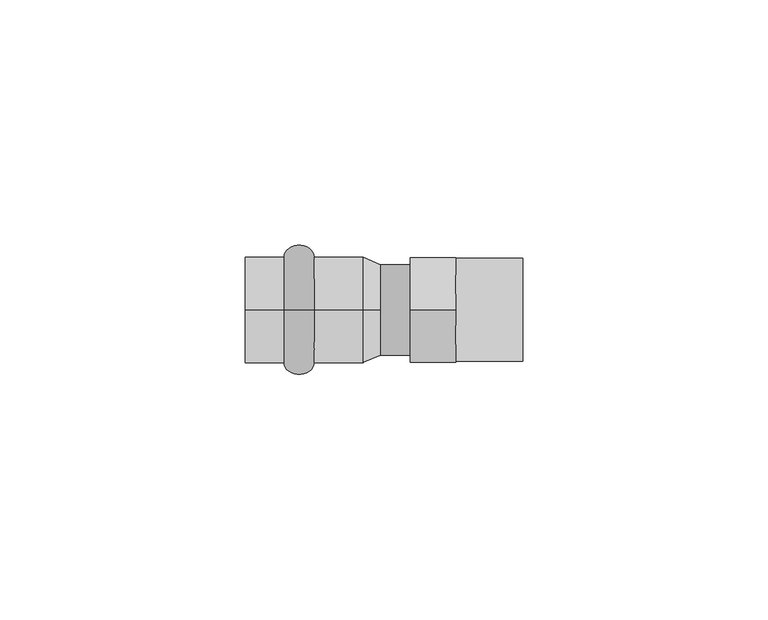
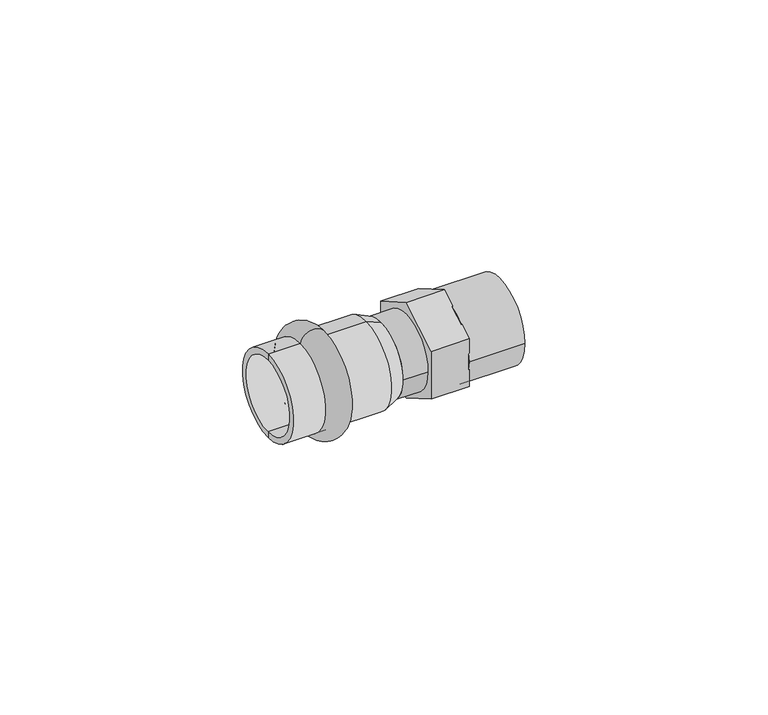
"""IFC4 building model written with IfcOpenShell, lengths in millimetres: pipe fitting geometry."""

from ifc_helpers import new_model, si_unit, point, frame, origin, origin_2d, place, context, project, spatial, polyline, circle_curve, ellipse_curve, trimmed, segment, composite_curve, outline, extrude, source, transform, mapped, element, save
from ifc_brep_helpers import plane_surface, cylinder_surface, revolved_surface, advanced_brep


def pipe_fitting_68494769(model_context):
    return source(origin(), model_context, "Body", "SolidModel", [
        advanced_brep(
        [(-16.1, 0.0, 10.75), (-16.1, 0.0, -10.75), (-10.0, 0.0, -10.75), (-10.0, 0.0, 10.75)],
        [
            (0, 1, circle_curve(frame((-16.1, 0.0, 0.0), z_axis=(-1.0, 0.0, 0.0), x_axis=(0.0, 0.0, -1.0)), 10.75)),
            (1, 2),
            (2, 3, circle_curve(frame((-10.0, 0.0, 0.0), z_axis=(1.0, 0.0, 0.0), x_axis=(0.0, 0.0, -1.0)), 10.75)),
            (3, 0),
            (1, 0, circle_curve(frame((-16.1, 0.0, 0.0), z_axis=(-1.0, 0.0, 0.0), x_axis=(0.0, 0.0, -1.0)), 10.75)),
            (3, 2, circle_curve(frame((-10.0, 0.0, 0.0), z_axis=(1.0, 0.0, 0.0), x_axis=(0.0, 0.0, -1.0)), 10.75)),
            (2, 1, ellipse_curve(frame((-13.05, 0.0, -10.75), z_axis=(0.0, 1.0, 0.0), x_axis=(-1.0, 0.0, 0.0)), 3.05, 2.5)),
            (0, 3, ellipse_curve(frame((-13.05, 0.0, 10.75), z_axis=(0.0, 1.0, 0.0), x_axis=(-1.0, 0.0, 0.0)), 3.05, 2.5)),
        ],
        [
            revolved_surface(polyline([(-10.0, 0.0, -10.75), (-16.1, 0.0, -10.75)]), (3.0, 0.0, 0.0), (1.0, 0.0, 0.0)),
            revolved_surface(trimmed(ellipse_curve(frame((-13.05, 0.0, -10.75), z_axis=(0.0, -1.0, 0.0), x_axis=(-1.0, 0.0, 0.0)), 3.05, 2.5), [point((-16.1, 0.0, -10.75))], [point((-10.0, 0.0, -10.75))], True, "CARTESIAN"), (3.0, 0.0, 0.0), (1.0, 0.0, 0.0)),
        ],
        [
            (0, [[1, 2, 3, 4]]),
            (0, [[5, -4, 6, -2]]),
            (1, [[-3, 7, -1, 8]]),
            (1, [[-6, -8, -5, -7]]),
        ],
    ),
        advanced_brep(
        [(3.5337785, 0.0, 9.25), (3.5337785, 0.0, -9.25), (0.0, 0.0, -10.75), (0.0, 0.0, 10.75), (-24.0, 0.0, 9.25), (-24.0, 0.0, -9.25), (-24.0, 0.0, 10.75), (-24.0, 0.0, -10.75)],
        [
            (0, 1, circle_curve(frame((3.5337785, 0.0, 0.0), z_axis=(-1.0, 0.0, 0.0), x_axis=(0.0, 0.0, -1.0)), 9.25)),
            (1, 2),
            (2, 3, circle_curve(frame((0.0, 0.0, 0.0), z_axis=(1.0, 0.0, 0.0), x_axis=(0.0, 0.0, -1.0)), 10.75)),
            (3, 0),
            (1, 0, circle_curve(frame((3.5337785, 0.0, 0.0), z_axis=(-1.0, 0.0, 0.0), x_axis=(0.0, 0.0, -1.0)), 9.25)),
            (3, 2, circle_curve(frame((0.0, 0.0, 0.0), z_axis=(1.0, 0.0, 0.0), x_axis=(0.0, 0.0, -1.0)), 10.75)),
            (4, 5, circle_curve(frame((-24.0, 0.0, 0.0), z_axis=(-1.0, 0.0, 0.0), x_axis=(0.0, 0.0, -1.0)), 9.25)),
            (5, 1),
            (0, 4),
            (5, 4, circle_curve(frame((-24.0, 0.0, 0.0), z_axis=(-1.0, 0.0, 0.0), x_axis=(0.0, 0.0, -1.0)), 9.25)),
            (6, 7, circle_curve(frame((-24.0, 0.0, 0.0), z_axis=(-1.0, 0.0, 0.0), x_axis=(0.0, 0.0, -1.0)), 10.75)),
            (7, 5),
            (4, 6),
            (7, 6, circle_curve(frame((-24.0, 0.0, 0.0), z_axis=(-1.0, 0.0, 0.0), x_axis=(0.0, 0.0, -1.0)), 10.75)),
            (2, 7),
            (6, 3),
        ],
        [
            revolved_surface(polyline([(0.0, 0.0, -10.75), (3.5337785, 0.0, -9.25)]), (3.0, 0.0, 0.0), (1.0, 0.0, 0.0)),
            revolved_surface(polyline([(3.5337785, 0.0, -9.25), (-24.0, 0.0, -9.25)]), (3.0, 0.0, 0.0), (1.0, 0.0, 0.0)),
            plane_surface(frame((-24.0, 0.0, 0.0), z_axis=(-1.0, 0.0, 0.0), x_axis=(0.0, 0.0, -1.0))),
            cylinder_surface(frame((3.0, 0.0, 0.0), z_axis=(1.0, 0.0, 0.0), x_axis=(0.0, 0.0, -1.0)), 10.75),
        ],
        [
            (0, [[1, 2, 3, 4]]),
            (0, [[5, -4, 6, -2]]),
            (1, [[7, 8, -1, 9]]),
            (1, [[10, -9, -5, -8]]),
            (2, [[11, 12, -7, 13]]),
            (2, [[14, -13, -10, -12]]),
            (3, [[-3, 15, -11, 16]]),
            (3, [[-6, -16, -14, -15]]),
        ],
    ),
        extrude(outline(composite_curve([segment(trimmed(circle_curve(origin_2d(), 10.5), [point((-10.5, 0.0))], [point((10.5, 0.0))], False, "CARTESIAN"), True, "CONTINUOUS"), segment(trimmed(circle_curve(origin_2d(), 10.5), [point((10.5, 0.0))], [point((-10.5, 0.0))], False, "CARTESIAN"), True, "CONTINUOUS")], self_intersect=False)), frame((18.9337785, 0.0, 0.0), z_axis=(1.0, 0.0, 0.0), x_axis=(0.0, 1.0, 0.0)), (0.0, 0.0, 1.0), 13.6),
        extrude(outline(composite_curve([segment(trimmed(circle_curve(origin_2d(), 9.25), [point((-9.25, 0.0))], [point((9.25, 0.0))], False, "CARTESIAN"), True, "CONTINUOUS"), segment(trimmed(circle_curve(origin_2d(), 9.25), [point((9.25, 0.0))], [point((-9.25, 0.0))], False, "CARTESIAN"), True, "CONTINUOUS")], self_intersect=False)), frame((3.5337785, 0.0, 0.0), z_axis=(1.0, 0.0, 0.0), x_axis=(0.0, 1.0, 0.0)), (0.0, 0.0, 1.0), 6.1),
        extrude(outline(polyline([(-10.65, 6.1487804), (0.0, 12.2975607), (10.65, 6.1487804), (10.65, -6.1487804), (0.0, -12.2975607), (-10.65, -6.1487804), (-10.65, 6.1487804)]), holes=[polyline([(0.0, -4.9074773), (4.25, -2.4537386), (4.25, 2.4537386), (0.0, 4.9074773), (-4.25, 2.4537386), (-4.25, -2.4537386), (0.0, -4.9074773)])]), frame((9.6337785, 0.0, 0.0), z_axis=(1.0, 0.0, 0.0), x_axis=(0.0, 1.0, 0.0)), (0.0, 0.0, 1.0), 9.3),
    ])


if __name__ == "__main__":
    model = new_model("IFC4")
    model_context = context("Model", 3, world=origin())
    ifc_project = project(units=[si_unit("LENGTHUNIT", "METRE", prefix="MILLI")], contexts=[model_context])
    site = spatial("IfcSite", under=ifc_project)
    building = spatial("IfcBuilding", under=site)
    placement = place(None, origin())
    pipe_fitting_shape = pipe_fitting_68494769(model_context)
    element("IfcPipeFitting", 1, ObjectType="РЕХАУ_Пресс Муфта НР : 18 x R 1/2\"", at=placement, inside=building, context=model_context, shape_type="MappedRepresentation", body=[
        mapped(pipe_fitting_shape, transform((0.0, 0.0, 0.0), x_axis=(1.0, 0.0, 0.0), y_axis=(0.0, 1.0, 0.0), z_axis=(0.0, 0.0, 1.0))),
    ])
    save(model, "model.ifc")
